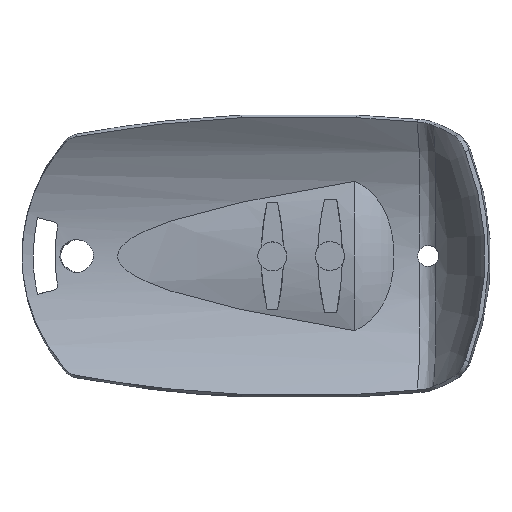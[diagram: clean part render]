
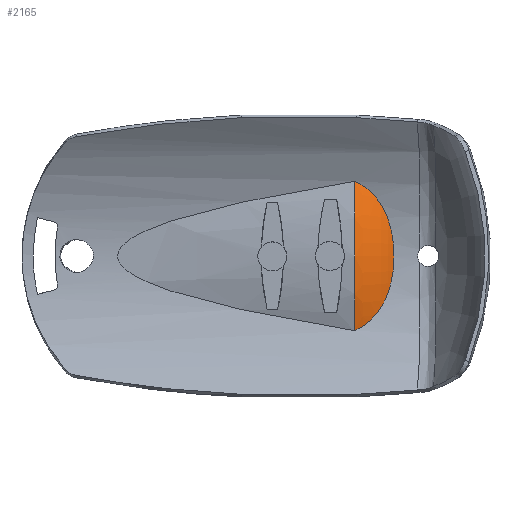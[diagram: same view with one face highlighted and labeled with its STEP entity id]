
A CAD part, front view. The second image highlights one B-rep face of the part: STEP entity #2165.
In plain terms, the highlighted toroidal (fillet/blend) face has major radius 21.661 mm and minor radius 11.1 mm.
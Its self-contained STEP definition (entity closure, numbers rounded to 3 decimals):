
#180 = AXIS2_PLACEMENT_3D ( 'NONE', #3315, #5328, #1589 ) ;
#346 = CARTESIAN_POINT ( 'NONE',  ( 15.558, 14.632, -9.255 ) ) ;
#362 = CARTESIAN_POINT ( 'NONE',  ( 19.205, 16.087, -1.032 ) ) ;
#370 = FACE_OUTER_BOUND ( 'NONE', #2947, .T. ) ;
#383 = CARTESIAN_POINT ( 'NONE',  ( 14.282, 14.344, 10.097 ) ) ;
#769 = ORIENTED_EDGE ( 'NONE', *, *, #4080, .T. ) ;
#782 = CARTESIAN_POINT ( 'NONE',  ( 16.135, 14.793, -8.746 ) ) ;
#803 = CARTESIAN_POINT ( 'NONE',  ( 19.228, 16.1, 0.519 ) ) ;
#1021 = VERTEX_POINT ( 'NONE', #2128 ) ;
#1043 = CARTESIAN_POINT ( 'NONE',  ( 13.802, 14.269, -10.304 ) ) ;
#1186 = CARTESIAN_POINT ( 'NONE',  ( 14.282, 14.344, -10.097 ) ) ;
#1203 = CARTESIAN_POINT ( 'NONE',  ( 16.987, 15.069, -7.795 ) ) ;
#1221 = CARTESIAN_POINT ( 'NONE',  ( 19.111, 16.033, 2.074 ) ) ;
#1384 = TOROIDAL_SURFACE ( 'NONE', #180, 21.661, 11.1 ) ;
#1589 = DIRECTION ( 'NONE',  ( 0., 0., -1. ) ) ;
#1635 = CARTESIAN_POINT ( 'NONE',  ( 17.546, 15.284, -6.942 ) ) ;
#1655 = CARTESIAN_POINT ( 'NONE',  ( 18.747, 15.833, 4.119 ) ) ;
#2064 = CARTESIAN_POINT ( 'NONE',  ( 17.913, 15.438, -6.263 ) ) ;
#2079 = CARTESIAN_POINT ( 'NONE',  ( 17.582, 15.29, 6.976 ) ) ;
#2097 = DIRECTION ( 'NONE',  ( 1., 0., 0. ) ) ;
#2128 = CARTESIAN_POINT ( 'NONE',  ( 13.802, 14.269, 10.304 ) ) ;
#2165 = ADVANCED_FACE ( 'NONE', ( #370 ), #1384, .T. ) ;
#2491 = CARTESIAN_POINT ( 'NONE',  ( 18.748, 15.833, -4.116 ) ) ;
#2510 = CARTESIAN_POINT ( 'NONE',  ( 15.95, 14.736, 8.937 ) ) ;
#2916 = CARTESIAN_POINT ( 'NONE',  ( 15.356, 14.581, -9.411 ) ) ;
#2937 = CARTESIAN_POINT ( 'NONE',  ( 19.112, 16.033, -2.064 ) ) ;
#2947 = EDGE_LOOP ( 'NONE', ( #4859, #769 ) ) ;
#2952 = CARTESIAN_POINT ( 'NONE',  ( 14.729, 14.434, 9.847 ) ) ;
#3315 = CARTESIAN_POINT ( 'NONE',  ( 10.739, 44.913, 0. ) ) ;
#3359 = CARTESIAN_POINT ( 'NONE',  ( 15.947, 14.738, -8.923 ) ) ;
#3382 = CARTESIAN_POINT ( 'NONE',  ( 19.228, 16.1, -0.515 ) ) ;
#3392 = CARTESIAN_POINT ( 'NONE',  ( 13.802, 14.269, 10.304 ) ) ;
#3740 = AXIS2_PLACEMENT_3D ( 'NONE', #4600, #2097, #5036 ) ;
#3761 = CARTESIAN_POINT ( 'NONE',  ( 16.67, 14.958, -8.193 ) ) ;
#3779 = CARTESIAN_POINT ( 'NONE',  ( 19.205, 16.087, 1.037 ) ) ;
#3878 = B_SPLINE_CURVE_WITH_KNOTS ( 'NONE', 3,
 ( #4153, #1186, #5418, #2916, #346, #3359, #782, #3761, #1203, #4169, #1635, #4566, #2064, #4998, #2491, #5438, #2937, #362, #3382, #803, #3779, #1221, #4189, #1655, #4580, #2079, #5019, #2510, #5446, #2952, #383, #3392 ),
 .UNSPECIFIED., .F., .F.,
 ( 4, 2, 2, 2, 2, 2, 2, 2, 2, 2, 2, 2, 2, 2, 2, 4 ),
 ( 0., 0.002, 0.002, 0.003, 0.005, 0.005, 0.006, 0.009, 0.011, 0.012, 0.014, 0.016, 0.019, 0.022, 0.023, 0.025 ),
 .UNSPECIFIED. ) ;
#4074 = EDGE_CURVE ( 'NONE', #4673, #1021, #3878, .T. ) ;
#4080 = EDGE_CURVE ( 'NONE', #1021, #4673, #5420, .T. ) ;
#4153 = CARTESIAN_POINT ( 'NONE',  ( 13.802, 14.269, -10.304 ) ) ;
#4169 = CARTESIAN_POINT ( 'NONE',  ( 17.412, 15.231, -7.16 ) ) ;
#4189 = CARTESIAN_POINT ( 'NONE',  ( 19.039, 15.992, 2.594 ) ) ;
#4566 = CARTESIAN_POINT ( 'NONE',  ( 17.796, 15.387, -6.494 ) ) ;
#4580 = CARTESIAN_POINT ( 'NONE',  ( 18.452, 15.677, 5.101 ) ) ;
#4600 = CARTESIAN_POINT ( 'NONE',  ( 13.802, 44.913, 0. ) ) ;
#4673 = VERTEX_POINT ( 'NONE', #1043 ) ;
#4859 = ORIENTED_EDGE ( 'NONE', *, *, #4074, .T. ) ;
#4998 = CARTESIAN_POINT ( 'NONE',  ( 18.453, 15.678, -5.098 ) ) ;
#5019 = CARTESIAN_POINT ( 'NONE',  ( 17.025, 15.068, 7.827 ) ) ;
#5036 = DIRECTION ( 'NONE',  ( 0., 0., -1. ) ) ;
#5328 = DIRECTION ( 'NONE',  ( 1., 0., 0. ) ) ;
#5418 = CARTESIAN_POINT ( 'NONE',  ( 14.729, 14.434, -9.847 ) ) ;
#5420 = CIRCLE ( 'NONE', #3740, 32.33 ) ;
#5438 = CARTESIAN_POINT ( 'NONE',  ( 19.041, 15.993, -2.583 ) ) ;
#5446 = CARTESIAN_POINT ( 'NONE',  ( 15.563, 14.629, 9.267 ) ) ;
